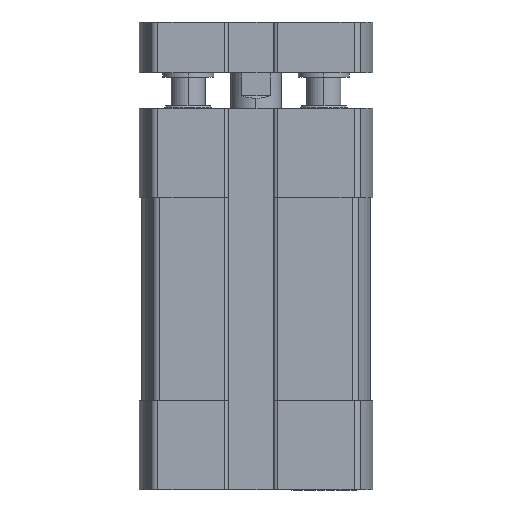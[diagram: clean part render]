
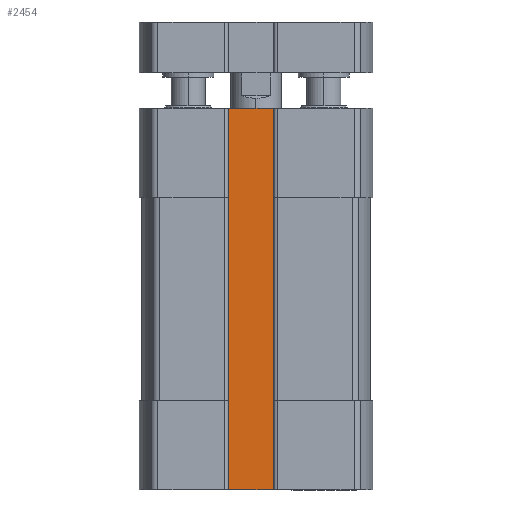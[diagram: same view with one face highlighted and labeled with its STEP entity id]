
A CAD part, front view. The second image highlights one B-rep face of the part: STEP entity #2454.
In plain terms, the highlighted planar face has unit normal (0, -1, 0) as drawn and (-1, 0, 0) by its records, which use the part's own axes.
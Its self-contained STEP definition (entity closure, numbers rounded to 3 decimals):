
#289 = DIRECTION ( 'NONE',  ( 0., 0., -1. ) ) ;
#500 = VECTOR ( 'NONE', #852, 1000. ) ;
#559 = VERTEX_POINT ( 'NONE', #10377 ) ;
#618 = CARTESIAN_POINT ( 'NONE',  ( -8.3, 3.6, -45. ) ) ;
#715 = VERTEX_POINT ( 'NONE', #14640 ) ;
#852 = DIRECTION ( 'NONE',  ( 0., -1., 0. ) ) ;
#1121 = CARTESIAN_POINT ( 'NONE',  ( -8.3, 3.6, -45. ) ) ;
#1263 = ORIENTED_EDGE ( 'NONE', *, *, #10169, .T. ) ;
#2123 = EDGE_LOOP ( 'NONE', ( #9027, #1263, #12743, #2498 ) ) ;
#2454 = ADVANCED_FACE ( 'NONE', ( #15919 ), #3723, .T. ) ;
#2498 = ORIENTED_EDGE ( 'NONE', *, *, #3650, .T. ) ;
#3173 = DIRECTION ( 'NONE',  ( 0., -1., 0. ) ) ;
#3650 = EDGE_CURVE ( 'NONE', #715, #7533, #6391, .T. ) ;
#3723 = PLANE ( 'NONE',  #7360 ) ;
#4066 = LINE ( 'NONE', #15009, #14186 ) ;
#5000 = VECTOR ( 'NONE', #16749, 1000. ) ;
#6178 = CARTESIAN_POINT ( 'NONE',  ( -8.3, -2.5, 0. ) ) ;
#6263 = CARTESIAN_POINT ( 'NONE',  ( -8.3, -2.4, -45. ) ) ;
#6391 = LINE ( 'NONE', #8179, #16076 ) ;
#6436 = DIRECTION ( 'NONE',  ( 0., 0., 1. ) ) ;
#6949 = EDGE_CURVE ( 'NONE', #715, #16265, #11877, .T. ) ;
#7360 = AXIS2_PLACEMENT_3D ( 'NONE', #1121, #14348, #6436 ) ;
#7533 = VERTEX_POINT ( 'NONE', #618 ) ;
#8179 = CARTESIAN_POINT ( 'NONE',  ( -8.3, 3.6, -45. ) ) ;
#9027 = ORIENTED_EDGE ( 'NONE', *, *, #12703, .T. ) ;
#10169 = EDGE_CURVE ( 'NONE', #559, #16265, #15103, .T. ) ;
#10377 = CARTESIAN_POINT ( 'NONE',  ( -8.3, -2.4, -45. ) ) ;
#11877 = LINE ( 'NONE', #6178, #500 ) ;
#12703 = EDGE_CURVE ( 'NONE', #7533, #559, #4066, .T. ) ;
#12743 = ORIENTED_EDGE ( 'NONE', *, *, #6949, .F. ) ;
#13335 = CARTESIAN_POINT ( 'NONE',  ( -8.3, -2.4, 0. ) ) ;
#14186 = VECTOR ( 'NONE', #3173, 1000. ) ;
#14348 = DIRECTION ( 'NONE',  ( -1., 0., 0. ) ) ;
#14640 = CARTESIAN_POINT ( 'NONE',  ( -8.3, 3.6, 0. ) ) ;
#15009 = CARTESIAN_POINT ( 'NONE',  ( -8.3, -2.5, -45. ) ) ;
#15103 = LINE ( 'NONE', #6263, #5000 ) ;
#15919 = FACE_OUTER_BOUND ( 'NONE', #2123, .T. ) ;
#16076 = VECTOR ( 'NONE', #289, 1000. ) ;
#16265 = VERTEX_POINT ( 'NONE', #13335 ) ;
#16749 = DIRECTION ( 'NONE',  ( 0., 0., 1. ) ) ;
